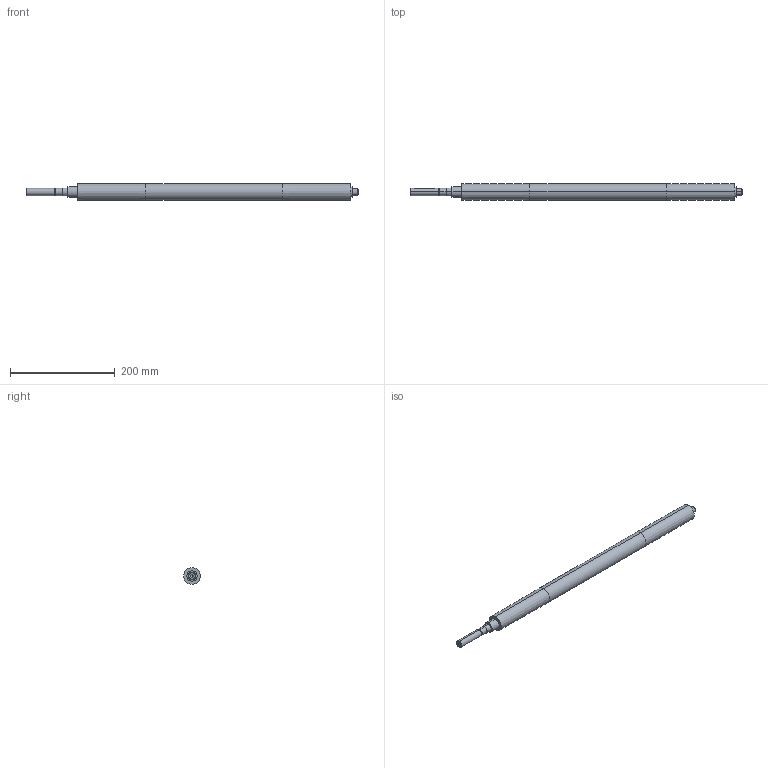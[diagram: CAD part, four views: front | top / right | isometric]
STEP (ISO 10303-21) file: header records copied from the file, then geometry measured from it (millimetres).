
FILE_DESCRIPTION (( 'STEP AP214' ), '1' );
FILE_NAME ('084.030.118.STEP', '2021-02-05T15:37:21', ( '' ), ( '' ), 'SwSTEP 2.0', 'SolidWorks 2018', '' );
FILE_SCHEMA (( 'AUTOMOTIVE_DESIGN' ));
Length unit declared in the file: millimetre
Products named in the file (1): 084.030.118
Bounding box: 632.5 x 32 x 32 mm (x, y, z)
Volume: 431295.9 mm3; surface area: 59203.8 mm2
Topology: 1 solids, 1 shells, 42 faces, 86 edges, 53 vertices
Faces by surface type: cylinder 20, plane 12, cone 10
Entity records: 1216 total; most frequent: CARTESIAN_POINT 242, DIRECTION 214, ORIENTED_EDGE 168, AXIS2_PLACEMENT_3D 89, EDGE_CURVE 84, VERTEX_POINT 53, EDGE_LOOP 51, CIRCLE 46
